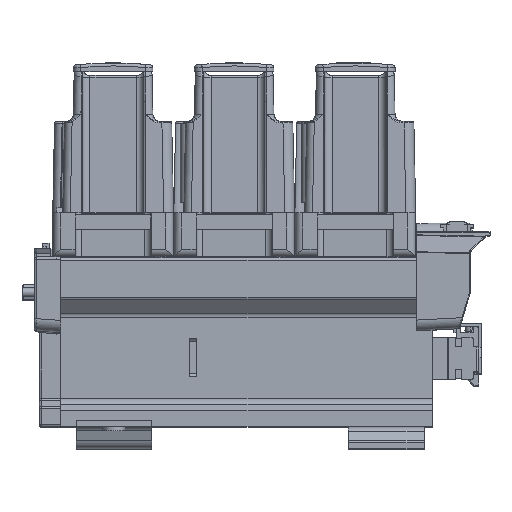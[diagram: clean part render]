
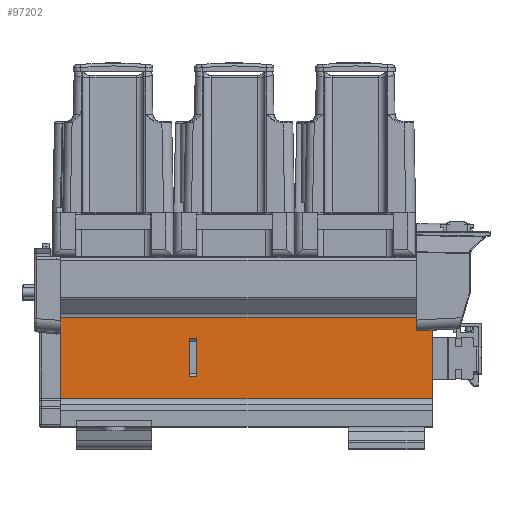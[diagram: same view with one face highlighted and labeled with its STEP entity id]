
A CAD part, top view. The second image highlights one B-rep face of the part: STEP entity #97202.
In plain terms, the highlighted planar face has unit normal (0, 0, 1).
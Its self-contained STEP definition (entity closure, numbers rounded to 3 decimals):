
#1101 = EDGE_CURVE ( 'NONE', #89742, #72091, #116227, .T. ) ;
#5012 = VERTEX_POINT ( 'NONE', #54150 ) ;
#5907 = CARTESIAN_POINT ( 'NONE',  ( 2.55, -75.55, -43. ) ) ;
#9629 = ORIENTED_EDGE ( 'NONE', *, *, #69733, .F. ) ;
#11131 = CARTESIAN_POINT ( 'NONE',  ( 2.55, -50.05, -43. ) ) ;
#12308 = ORIENTED_EDGE ( 'NONE', *, *, #74339, .F. ) ;
#14214 = CARTESIAN_POINT ( 'NONE',  ( 250.55, -90.15, -43. ) ) ;
#16510 = DIRECTION ( 'NONE',  ( 1., 0., 0. ) ) ;
#16829 = LINE ( 'NONE', #74518, #117466 ) ;
#16949 = ORIENTED_EDGE ( 'NONE', *, *, #1101, .F. ) ;
#18116 = LINE ( 'NONE', #31960, #95120 ) ;
#18185 = ORIENTED_EDGE ( 'NONE', *, *, #122993, .F. ) ;
#21868 = LINE ( 'NONE', #69778, #125666 ) ;
#23259 = ORIENTED_EDGE ( 'NONE', *, *, #87793, .T. ) ;
#23367 = PLANE ( 'NONE',  #45380 ) ;
#25245 = CARTESIAN_POINT ( 'NONE',  ( 2.121, -36.28, -43. ) ) ;
#27411 = EDGE_CURVE ( 'NONE', #44934, #5012, #16829, .T. ) ;
#28169 = LINE ( 'NONE', #114745, #78443 ) ;
#31960 = CARTESIAN_POINT ( 'NONE',  ( 90.05, -34.824, -43. ) ) ;
#32584 = VERTEX_POINT ( 'NONE', #115717 ) ;
#33482 = DIRECTION ( 'NONE',  ( -1., 0., 0. ) ) ;
#35293 = LINE ( 'NONE', #11131, #88712 ) ;
#36707 = FACE_BOUND ( 'NONE', #77464, .T. ) ;
#42104 = DIRECTION ( 'NONE',  ( 0., -1., 0. ) ) ;
#44288 = ORIENTED_EDGE ( 'NONE', *, *, #101621, .F. ) ;
#44934 = VERTEX_POINT ( 'NONE', #14214 ) ;
#45380 = AXIS2_PLACEMENT_3D ( 'NONE', #53235, #93657, #33482 ) ;
#48266 = VERTEX_POINT ( 'NONE', #53685 ) ;
#49954 = DIRECTION ( 'NONE',  ( 0., 1., 0. ) ) ;
#53163 = VERTEX_POINT ( 'NONE', #88264 ) ;
#53235 = CARTESIAN_POINT ( 'NONE',  ( 2.55, -34.824, -43. ) ) ;
#53685 = CARTESIAN_POINT ( 'NONE',  ( 90.05, -50.05, -43. ) ) ;
#54150 = CARTESIAN_POINT ( 'NONE',  ( 250.55, -36.28, -43. ) ) ;
#56873 = ORIENTED_EDGE ( 'NONE', *, *, #119731, .F. ) ;
#66588 = FACE_OUTER_BOUND ( 'NONE', #98368, .T. ) ;
#69733 = EDGE_CURVE ( 'NONE', #48266, #89742, #18116, .T. ) ;
#69778 = CARTESIAN_POINT ( 'NONE',  ( 2.55, -52.8, -43. ) ) ;
#72091 = VERTEX_POINT ( 'NONE', #88002 ) ;
#74339 = EDGE_CURVE ( 'NONE', #83899, #32584, #21868, .T. ) ;
#74518 = CARTESIAN_POINT ( 'NONE',  ( 250.55, -34.824, -43. ) ) ;
#74622 = LINE ( 'NONE', #82849, #124905 ) ;
#77464 = EDGE_LOOP ( 'NONE', ( #16949, #9629, #56873, #44288 ) ) ;
#78443 = VECTOR ( 'NONE', #104631, 1000. ) ;
#78599 = ORIENTED_EDGE ( 'NONE', *, *, #27411, .T. ) ;
#81072 = DIRECTION ( 'NONE',  ( -1., 0., 0. ) ) ;
#82849 = CARTESIAN_POINT ( 'NONE',  ( 2.55, -90.15, -43. ) ) ;
#83899 = VERTEX_POINT ( 'NONE', #117593 ) ;
#84597 = DIRECTION ( 'NONE',  ( 0., 1., 0. ) ) ;
#85408 = DIRECTION ( 'NONE',  ( -1., 0., 0. ) ) ;
#87793 = EDGE_CURVE ( 'NONE', #5012, #32584, #110820, .T. ) ;
#88002 = CARTESIAN_POINT ( 'NONE',  ( 95.05, -75.55, -43. ) ) ;
#88264 = CARTESIAN_POINT ( 'NONE',  ( 95.05, -50.05, -43. ) ) ;
#88712 = VECTOR ( 'NONE', #81072, 1000. ) ;
#89459 = VECTOR ( 'NONE', #16510, 1000. ) ;
#89742 = VERTEX_POINT ( 'NONE', #108495 ) ;
#93441 = VECTOR ( 'NONE', #85408, 1000. ) ;
#93657 = DIRECTION ( 'NONE',  ( 0., 0., -1. ) ) ;
#95120 = VECTOR ( 'NONE', #42104, 1000. ) ;
#97202 = ADVANCED_FACE ( 'NONE', ( #66588, #36707 ), #23367, .F. ) ;
#98368 = EDGE_LOOP ( 'NONE', ( #78599, #23259, #12308, #18185 ) ) ;
#101621 = EDGE_CURVE ( 'NONE', #72091, #53163, #28169, .T. ) ;
#103069 = DIRECTION ( 'NONE',  ( -1., 0., 0. ) ) ;
#104631 = DIRECTION ( 'NONE',  ( 0., 1., 0. ) ) ;
#108495 = CARTESIAN_POINT ( 'NONE',  ( 90.05, -75.55, -43. ) ) ;
#110820 = LINE ( 'NONE', #25245, #93441 ) ;
#114745 = CARTESIAN_POINT ( 'NONE',  ( 95.05, -34.824, -43. ) ) ;
#115717 = CARTESIAN_POINT ( 'NONE',  ( 2.55, -36.28, -43. ) ) ;
#116227 = LINE ( 'NONE', #5907, #89459 ) ;
#117466 = VECTOR ( 'NONE', #84597, 1000. ) ;
#117593 = CARTESIAN_POINT ( 'NONE',  ( 2.55, -90.15, -43. ) ) ;
#119731 = EDGE_CURVE ( 'NONE', #53163, #48266, #35293, .T. ) ;
#122993 = EDGE_CURVE ( 'NONE', #44934, #83899, #74622, .T. ) ;
#124905 = VECTOR ( 'NONE', #103069, 1000. ) ;
#125666 = VECTOR ( 'NONE', #49954, 1000. ) ;
